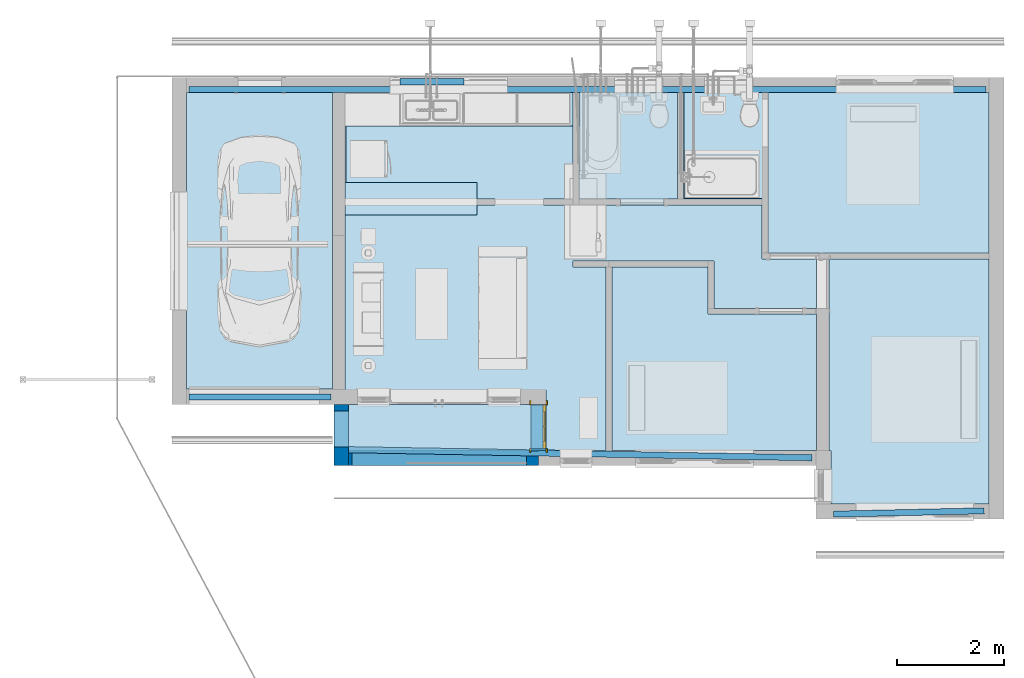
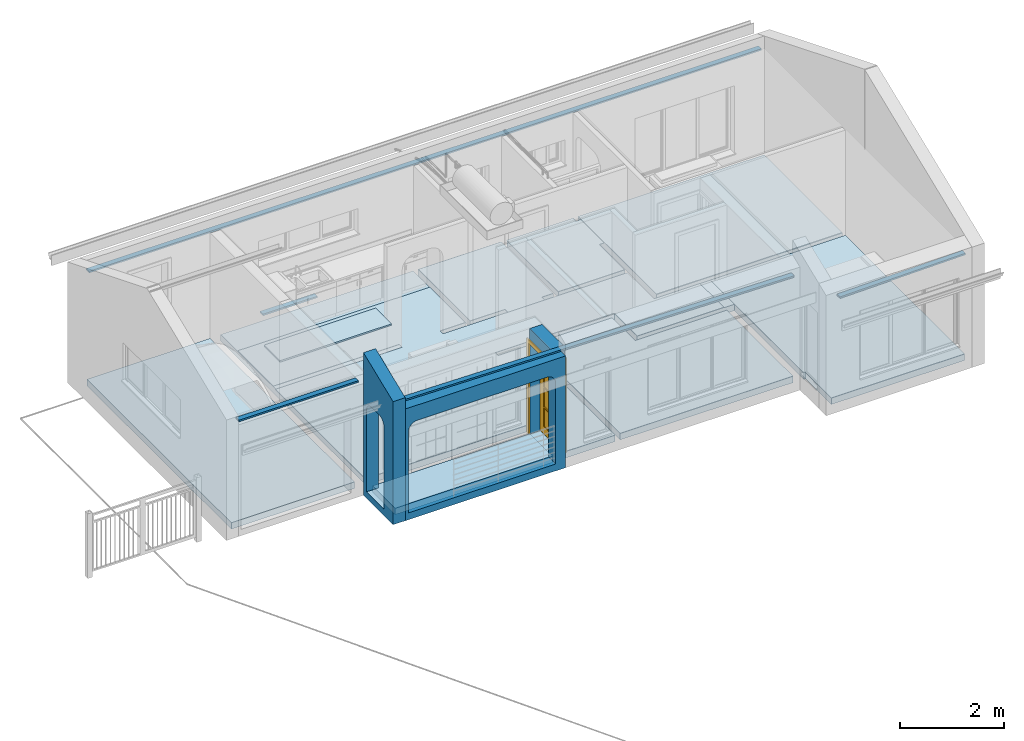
# One storey, part 1 of 41: 16 slabs, 5 beams, 3 walls, 1 door, 3 openings.
"""IFC2X3 building model written with IfcOpenShell, lengths in millimetres."""

from ifc_helpers import new_model, entity, si_unit, converted_unit, derived_unit, direction, frame, frame_2d, origin, origin_2d_with_axis, place, context, subcontext, project, spatial, polyline, circle_curve, parameter, trimmed, segment, composite_curve, rectangle, outline, extrude, clip, bounded_halfspace, source, transform, mapped, material, material_list, layer, layer_set, layer_usage, type_object, type_shapes, element, fill, save


model = new_model("IFC2X3")

# Units and contexts
model_context = context("Model", 3, precision=0.01, world=origin(), true_north=direction((6.12303176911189e-17, 1.0)))
body_context = subcontext(model_context, "Body", "Model", "MODEL_VIEW")
ifc_project = project(units=[si_unit("LENGTHUNIT", "METRE", prefix="MILLI"), si_unit("AREAUNIT", "SQUARE_METRE"), si_unit("VOLUMEUNIT", "CUBIC_METRE"), converted_unit("PLANEANGLEUNIT", "DEGREE", entity("IfcRatioMeasure", 0.0174532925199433), si_unit("PLANEANGLEUNIT", "RADIAN"), dimensions=[0, 0, 0, 0, 0, 0, 0]), si_unit("MASSUNIT", "GRAM", prefix="KILO"), derived_unit("MASSDENSITYUNIT", [(si_unit("MASSUNIT", "GRAM", prefix="KILO"), 1), (si_unit("LENGTHUNIT", "METRE"), -3)]), si_unit("TIMEUNIT", "SECOND"), si_unit("FREQUENCYUNIT", "HERTZ"), si_unit("THERMODYNAMICTEMPERATUREUNIT", "DEGREE_CELSIUS"), derived_unit("THERMALTRANSMITTANCEUNIT", [(si_unit("MASSUNIT", "GRAM", prefix="KILO"), 1), (si_unit("THERMODYNAMICTEMPERATUREUNIT", "KELVIN"), -1), (si_unit("TIMEUNIT", "SECOND"), -3)]), derived_unit("VOLUMETRICFLOWRATEUNIT", [(si_unit("LENGTHUNIT", "METRE"), 3), (si_unit("TIMEUNIT", "SECOND"), -1)]), si_unit("ELECTRICCURRENTUNIT", "AMPERE"), si_unit("ELECTRICVOLTAGEUNIT", "VOLT"), si_unit("POWERUNIT", "WATT"), si_unit("FORCEUNIT", "NEWTON", prefix="KILO"), si_unit("ILLUMINANCEUNIT", "LUX"), si_unit("LUMINOUSFLUXUNIT", "LUMEN"), si_unit("LUMINOUSINTENSITYUNIT", "CANDELA"), derived_unit("USERDEFINED", [(si_unit("MASSUNIT", "GRAM", prefix="KILO"), -1), (si_unit("LENGTHUNIT", "METRE"), -2), (si_unit("TIMEUNIT", "SECOND"), 3), (si_unit("LUMINOUSFLUXUNIT", "LUMEN"), 1)]), derived_unit("LINEARVELOCITYUNIT", [(si_unit("LENGTHUNIT", "METRE"), 1), (si_unit("TIMEUNIT", "SECOND"), -1)]), si_unit("PRESSUREUNIT", "PASCAL"), derived_unit("USERDEFINED", [(si_unit("LENGTHUNIT", "METRE"), -2), (si_unit("MASSUNIT", "GRAM", prefix="KILO"), 1), (si_unit("TIMEUNIT", "SECOND"), -2)])], contexts=[model_context])

# Site, building, storey
site_placement = place(None, origin())
site = spatial("IfcSite", under=ifc_project, at=site_placement, Name="Surface", CompositionType="ELEMENT")
building_placement = place(site_placement, origin())
building = spatial("IfcBuilding", under=site, at=building_placement, CompositionType="ELEMENT")
storey_placement = place(building_placement, frame((0.0, 0.0, 300.0)))
storey = spatial("IfcBuildingStorey", under=building, at=storey_placement, Name="F.F.L", CompositionType="ELEMENT", Elevation=300.0)

# Beams
ifc_material_1 = material(Name="Softwood, Lumber")
beam_type = type_object("IfcBeamType", Name="M_Glulam-Southern Pine:Wallplate  114x38", PredefinedType="BEAM")
beam_1_placement = place(storey_placement, frame((3407.29863510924, 2737.48311164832, 2465.0), z_axis=(0.0, 0.0, 1.0), x_axis=(-0.999760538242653, -0.0218830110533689, 0.0)))
element("IfcBeam", 1, at=beam_1_placement, inside=storey, type_object=beam_type, material=ifc_material_1, Name="M_Glulam-Southern Pine:Wallplate  114x38", ObjectType="M_Glulam-Southern Pine:Wallplate  114x38", context=body_context, shape_type="SweptSolid", body=[
    extrude(rectangle(XDim=38.0, YDim=114.000000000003, at=frame_2d((0.0, -5.40012479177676e-13), x_axis=(1.0, 0.0))), frame((314.259567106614, 0.0, 19.0), z_axis=(1.0, 0.0, 0.0), x_axis=(0.0, 0.0, -1.0)), (0.0, 0.0, 1.0), 2813.42966538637),
])
beam_2_placement = place(storey_placement, frame((-46.7807598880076, 3720.84008915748, 2465.0), z_axis=(0.0, 0.0, 1.0), x_axis=(-0.999847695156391, 0.0174524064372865, 0.0)))
element("IfcBeam", 2, at=beam_2_placement, inside=storey, type_object=beam_type, material=ifc_material_1, Name="M_Glulam-Southern Pine:Wallplate  114x38", ObjectType="M_Glulam-Southern Pine:Wallplate  114x38", context=body_context, shape_type="SweptSolid", body=[
    extrude(rectangle(XDim=38.0, YDim=114.000000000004, at=origin_2d_with_axis()), frame((78.1512943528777, 0.0, 19.0), z_axis=(1.0, 0.0, 0.0), x_axis=(0.0, 0.0, -1.0)), (0.0, 0.0, 1.0), 8693.88917741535),
])
beam_3_placement = place(storey_placement, frame((-9259.2914202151, 4860.84008915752, 2465.0), z_axis=(0.0, 0.0, 1.0), x_axis=(-1.0, 0.0, 0.0)))
element("IfcBeam", 3, at=beam_3_placement, inside=storey, type_object=beam_type, material=ifc_material_1, Name="M_Glulam-Southern Pine:Wallplate  114x38", ObjectType="M_Glulam-Southern Pine:Wallplate  114x38", context=body_context, shape_type="SweptSolid", body=[
    extrude(rectangle(XDim=38.0, YDim=114.000000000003, at=frame_2d((0.0, 9.2050811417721e-12), x_axis=(1.0, 0.0))), frame((-142.416250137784, 0.0, 19.0), z_axis=(1.0, 0.0, 0.0), x_axis=(0.0, 0.0, -1.0)), (0.0, 0.0, 1.0), 2647.5),
])
beam_4_placement = place(storey_placement, frame((-11838.9452826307, 10606.8170198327, 2465.0)))
element("IfcBeam", 4, at=beam_4_placement, inside=storey, type_object=beam_type, material=ifc_material_1, Name="M_Glulam-Southern Pine:Wallplate  114x38", ObjectType="M_Glulam-Southern Pine:Wallplate  114x38", context=body_context, shape_type="SweptSolid", body=[
    extrude(rectangle(XDim=38.0, YDim=114.000000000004, at=frame_2d((0.0, 4.87290208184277e-11), x_axis=(1.0, 0.0))), frame((74.5701125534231, 0.0, 19.0), z_axis=(1.0, 0.0, 0.0), x_axis=(0.0, 0.0, -1.0)), (0.0, 0.0, 1.0), 14887.5),
])
beam_5_placement = place(storey_placement, frame((-7828.80414978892, 10749.0773723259, 0.0)))
element("IfcBeam", 5, at=beam_5_placement, inside=storey, type_object=beam_type, material=ifc_material_1, Name="M_Glulam-Southern Pine:Wallplate  114x38", ObjectType="M_Glulam-Southern Pine:Wallplate  114x38", context=body_context, shape_type="SweptSolid", body=[
    extrude(rectangle(XDim=38.0, YDim=114.000000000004, at=frame_2d((0.0, 4.33431068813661e-12), x_axis=(1.0, 0.0))), frame((0.0, 0.0, 19.0), z_axis=(1.0, 0.0, 0.0), x_axis=(0.0, 0.0, -1.0)), (0.0, 0.0, 1.0), 1200.0),
])

# Slabs
ifc_material_2 = material(Name="Screed")
ifc_layer_1 = layer(ifc_material_2, 30.0)
ifc_material_3 = material(Name="Concrete, Cast-in-Place gray")
ifc_layer_2 = layer(ifc_material_3, 70.0)
ifc_material_4 = material(Name="Sandbed")
ifc_layer_3 = layer(ifc_material_4, 50.0)
ifc_layer_set_1 = layer_set([ifc_layer_1, ifc_layer_2, ifc_layer_3], Name="Floor:Surfacebed 150mm (Screed,Concrete,Sandbed)")
ifc_layer_usage_1 = layer_usage(ifc_layer_set_1, "AXIS3", "POSITIVE", 0.0)
slab_1_placement = place(storey_placement, origin())
element("IfcSlab", 6, at=slab_1_placement, inside=storey, material=ifc_layer_usage_1, Name="Floor:Surfacebed 150mm (Screed,Concrete,Sandbed)", ObjectType="Floor:Surfacebed 150mm (Screed,Concrete,Sandbed)", PredefinedType="FLOOR", context=body_context, shape_type="SweptSolid", body=[
    extrude(rectangle(XDim=1979.8722147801, YDim=1470.0, at=frame_2d((-5.6843418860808e-13, 0.0), x_axis=(1.0, 0.0))), frame((-1781.8751700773, 9555.90398176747, 0.0), z_axis=(0.0, 0.0, -1.0), x_axis=(0.0, 1.0, 0.0)), (0.0, 0.0, 1.0), 150.0),
])
ifc_layer_usage_2 = layer_usage(ifc_layer_set_1, "AXIS3", "POSITIVE", 0.0)
slab_2_placement = place(storey_placement, origin())
element("IfcSlab", 7, at=slab_2_placement, inside=storey, material=ifc_layer_usage_2, Name="Floor:Surfacebed 150mm (Screed,Concrete,Sandbed)", ObjectType="Floor:Surfacebed 150mm (Screed,Concrete,Sandbed)", PredefinedType="FLOOR", context=body_context, shape_type="SweptSolid", body=[
    extrude(rectangle(XDim=3010.00000000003, YDim=4120.0, at=frame_2d((-5.6843418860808e-13, 0.0), x_axis=(1.0, 0.0))), frame((1123.1248299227, 9040.8400891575, 0.0), z_axis=(0.0, 0.0, -1.0), x_axis=(0.0, 1.0, 0.0)), (0.0, 0.0, 1.0), 150.0),
])
ifc_layer_usage_3 = layer_usage(ifc_layer_set_1, "AXIS3", "POSITIVE", 0.0)
slab_3_placement = place(storey_placement, origin())
element("IfcSlab", 8, at=slab_3_placement, inside=storey, material=ifc_layer_usage_3, Name="Floor:Surfacebed 150mm (Screed,Concrete,Sandbed)", ObjectType="Floor:Surfacebed 150mm (Screed,Concrete,Sandbed)", PredefinedType="FLOOR", context=body_context, shape_type="SweptSolid", body=[
    extrude(outline(polyline([(-1990.0, -1876.66666666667), (1435.0, -1876.66666666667), (1435.0, -76.6666666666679), (555.0, -76.6666666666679), (555.0, 1953.33333333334), (-1990.0, 1953.33333333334), (-1990.0, -1876.66666666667)])), frame((-1990.20850341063, 5850.84008915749, 0.0), z_axis=(0.0, 0.0, -1.0), x_axis=(0.0, 1.0, 0.0)), (0.0, 0.0, 1.0), 150.0),
])
ifc_layer_usage_4 = layer_usage(ifc_layer_set_1, "AXIS3", "POSITIVE", 0.0)
slab_4_placement = place(storey_placement, origin())
element("IfcSlab", 9, at=slab_4_placement, inside=storey, material=ifc_layer_usage_4, Name="Floor:Surfacebed 150mm (Screed,Concrete,Sandbed)", ObjectType="Floor:Surfacebed 150mm (Screed,Concrete,Sandbed)", PredefinedType="FLOOR", context=body_context, shape_type="SweptSolid", body=[
    extrude(outline(polyline([(-865.0, -1010.0), (2720.0, -1010.0), (2720.0, 1980.0), (-1855.0, 1980.0), (-1855.0, -970.0), (-865.0, -970.0), (-865.0, -1010.0)])), frame((1203.12482992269, 4715.84008915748, 0.0), z_axis=(0.0, 0.0, -1.0), x_axis=(0.0, 1.0, 0.0)), (0.0, 0.0, 1.0), 150.0),
])
ifc_layer_usage_5 = layer_usage(ifc_layer_set_1, "AXIS3", "POSITIVE", 0.0)
slab_5_placement = place(storey_placement, origin())
element("IfcSlab", 10, at=slab_5_placement, inside=storey, material=ifc_layer_usage_5, Name="Floor:Surfacebed 150mm (Screed,Concrete,Sandbed)", ObjectType="Floor:Surfacebed 150mm (Screed,Concrete,Sandbed)", PredefinedType="FLOOR", context=body_context, shape_type="SweptSolid", body=[
    extrude(rectangle(XDim=5539.99999999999, YDim=2729.99999999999, at=frame_2d((-9.09494701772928e-13, 2.72848410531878e-12), x_axis=(1.0, 0.0))), frame((-10451.8751700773, 7775.84008915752, 0.0), z_axis=(0.0, 0.0, -1.0), x_axis=(0.0, 1.0, 0.0)), (0.0, 0.0, 1.0), 150.0),
])
ifc_layer_usage_6 = layer_usage(ifc_layer_set_1, "AXIS3", "POSITIVE", 0.0)
slab_6_placement = place(storey_placement, origin())
element("IfcSlab", 11, at=slab_6_placement, inside=storey, material=ifc_layer_usage_6, Name="Floor:Surfacebed 150mm (Screed,Concrete,Sandbed)", ObjectType="Floor:Surfacebed 150mm (Screed,Concrete,Sandbed)", PredefinedType="FLOOR", context=body_context, shape_type="SweptSolid", body=[
    extrude(rectangle(XDim=870.000000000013, YDim=3490.00000000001, at=frame_2d((2.44426701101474e-12, 1.13686837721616e-12), x_axis=(1.0, 0.0))), frame((-7111.87517007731, 4285.84008915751, 0.0), z_axis=(0.0, 0.0, -1.0), x_axis=(0.0, 1.0, 0.0)), (0.0, 0.0, 1.0), 150.0),
])
ifc_layer_usage_7 = layer_usage(ifc_layer_set_1, "AXIS3", "POSITIVE", 0.0)
slab_7_placement = place(storey_placement, origin())
element("IfcSlab", 12, at=slab_7_placement, inside=storey, material=ifc_layer_usage_7, Name="Floor:Surfacebed 150mm (Screed,Concrete,Sandbed)", ObjectType="Floor:Surfacebed 150mm (Screed,Concrete,Sandbed)", PredefinedType="FLOOR", context=body_context, shape_type="SweptSolid", body=[
    extrude(rectangle(XDim=1999.99999999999, YDim=1840.0, at=frame_2d((-5.6843418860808e-13, 0.0), x_axis=(1.0, 0.0))), frame((-3556.87517007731, 9555.8400891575, 0.0), z_axis=(0.0, 0.0, -1.0), x_axis=(0.0, 1.0, 0.0)), (0.0, 0.0, 1.0), 150.0),
])
ifc_layer_usage_8 = layer_usage(ifc_layer_set_1, "AXIS3", "POSITIVE", 0.0)
slab_8_placement = place(storey_placement, origin())
element("IfcSlab", 13, at=slab_8_placement, inside=storey, material=ifc_layer_usage_8, Name="Floor:Surfacebed 150mm (Screed,Concrete,Sandbed)", ObjectType="Floor:Surfacebed 150mm (Screed,Concrete,Sandbed)", PredefinedType="FLOOR", context=body_context, shape_type="SweptSolid", body=[
    extrude(outline(polyline([(-2164.24999999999, -5336.0), (3400.75000000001, -5336.0), (3400.75, -1076.0), (1400.75000000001, -1076.0), (1400.75000000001, -1636.0), (1290.75000000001, -1636.0), (1290.75, 2454.0), (280.749999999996, 2454.0), (280.749999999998, 3704.0), (-646.750000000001, 3704.0), (-646.750000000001, 3474.0), (-639.250000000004, 3474.0), (-639.250000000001, 1554.0), (240.749999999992, 1554.0), (240.749999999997, -1076.0), (130.749999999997, -1076.0), (130.749999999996, -466.0), (-3294.25, -466.0), (-3294.25, -1596.0), (-2164.25, -1596.0), (-2164.24999999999, -5336.0)])), frame((-3510.8751700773, 7155.09008915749, 0.0), z_axis=(0.0, 0.0, -1.0), x_axis=(0.0, 1.0, 0.0)), (0.0, 0.0, 1.0), 150.0),
])
ifc_material_5 = material(Name="Floor Tile")
ifc_layer_4 = layer(ifc_material_5, 4.0)
ifc_layer_set_2 = layer_set([ifc_layer_4], Name="Floor:Tiles")
ifc_layer_usage_9 = layer_usage(ifc_layer_set_2, "AXIS3", "POSITIVE", 0.0)
slab_9_placement = place(storey_placement, origin())
element("IfcSlab", 14, at=slab_9_placement, inside=storey, material=ifc_layer_usage_9, Name="Floor:Tiles", ObjectType="Floor:Tiles", PredefinedType="FLOOR", context=body_context, shape_type="SweptSolid", body=[
    extrude(outline(polyline([(-2409.96363636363, -4294.54545454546), (1045.03636363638, -4294.54545454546), (1045.03636363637, -1484.54545454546), (1155.03636363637, -1484.54545454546), (1155.03636363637, -4274.54545454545), (2519.63636363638, -4274.54545454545), (2519.63636363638, -24.5454545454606), (1155.03636363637, -24.5454545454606), (1155.03636363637, -584.545454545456), (1045.03636363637, -584.545454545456), (1045.03636363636, 3505.45454545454), (35.0363636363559, 3505.45454545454), (35.0363636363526, 4525.45454545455), (-884.96363636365, 4525.45454545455), (-884.963636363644, 2605.45454545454), (-4.9636363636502, 2605.45454545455), (-4.96363636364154, -24.5454545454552), (-114.963636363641, -24.5454545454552), (-114.963636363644, 585.454545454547), (-3539.96363636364, 585.454545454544), (-3539.96363636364, -534.545454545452), (-2409.96363636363, -534.545454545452), (-2409.96363636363, -4294.54545454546)])), frame((-4562.32971553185, 7400.80372552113, 3.0), z_axis=(0.0, 0.0, -1.0), x_axis=(0.0, 1.0, 0.0)), (0.0, 0.0, 1.0), 4.0),
])
ifc_material_6 = material(Name="Tile - Teracota")
ifc_layer_5 = layer(ifc_material_6, 4.0)
ifc_layer_set_3 = layer_set([ifc_layer_5], Name="Floor:Tiles - Teracota 2")
ifc_layer_usage_10 = layer_usage(ifc_layer_set_3, "AXIS3", "POSITIVE", 0.0)
slab_10_placement = place(storey_placement, origin())
element("IfcSlab", 15, at=slab_10_placement, inside=storey, material=ifc_layer_usage_10, Name="Floor:Tiles - Teracota 2", ObjectType="Floor:Tiles - Teracota 2", PredefinedType="FLOOR", context=body_context, shape_type="SweptSolid", body=[
    extrude(outline(polyline([(-352.500000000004, -1125.0), (327.499999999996, -1125.0), (327.499999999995, -855.0), (447.500000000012, -855.0), (447.500000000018, 2835.0), (-422.500000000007, 2835.0), (-422.500000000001, -855.0), (-352.500000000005, -855.0), (-352.500000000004, -1125.0)])), frame((-7931.87517007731, 4273.34008915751, 3.0), z_axis=(0.0, 0.0, -1.0), x_axis=(0.0, 1.0, 0.0)), (0.0, 0.0, 1.0), 4.0),
])
ifc_material_7 = material(Name="Carpet")
ifc_layer_6 = layer(ifc_material_7, 4.0)
ifc_layer_set_4 = layer_set([ifc_layer_6], Name="Floor:Carpet")
ifc_layer_usage_11 = layer_usage(ifc_layer_set_4, "AXIS3", "POSITIVE", 0.0)
slab_11_placement = place(storey_placement, origin())
element("IfcSlab", 16, at=slab_11_placement, inside=storey, material=ifc_layer_usage_11, Name="Floor:Carpet", ObjectType="Floor:Carpet", PredefinedType="FLOOR", context=body_context, shape_type="SweptSolid", body=[
    extrude(outline(polyline([(-1990.0, -1876.66666666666), (1435.0, -1876.66666666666), (1435.0, -76.6666666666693), (555.0, -76.6666666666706), (555.0, 1953.33333333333), (-1990.0, 1953.33333333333), (-1990.0, -1876.66666666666)])), frame((-1990.20850341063, 5850.84008915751, 3.0), z_axis=(0.0, 0.0, -1.0), x_axis=(0.0, 1.0, 0.0)), (0.0, 0.0, 1.0), 4.0),
])
ifc_layer_usage_12 = layer_usage(ifc_layer_set_4, "AXIS3", "POSITIVE", 0.0)
slab_12_placement = place(storey_placement, origin())
element("IfcSlab", 17, at=slab_12_placement, inside=storey, material=ifc_layer_usage_12, Name="Floor:Carpet", ObjectType="Floor:Carpet", PredefinedType="FLOOR", context=body_context, shape_type="SweptSolid", body=[
    extrude(outline(polyline([(-858.333333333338, -1010.0), (2716.66666666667, -1010.0), (2716.66666666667, 1980.0), (-1858.33333333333, 1980.0), (-1858.33333333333, -970.0), (-858.333333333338, -970.0), (-858.333333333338, -1010.0)])), frame((1203.12482992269, 4719.17342249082, 3.0), z_axis=(0.0, 0.0, -1.0), x_axis=(0.0, 1.0, 0.0)), (0.0, 0.0, 1.0), 4.0),
])
ifc_layer_usage_13 = layer_usage(ifc_layer_set_4, "AXIS3", "POSITIVE", 0.0)
slab_13_placement = place(storey_placement, origin())
element("IfcSlab", 18, at=slab_13_placement, inside=storey, material=ifc_layer_usage_13, Name="Floor:Carpet", ObjectType="Floor:Carpet", PredefinedType="FLOOR", context=body_context, shape_type="SweptSolid", body=[
    extrude(rectangle(XDim=3000.00000000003, YDim=4120.0, at=origin_2d_with_axis()), frame((1123.1248299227, 9045.8400891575, 3.0), z_axis=(0.0, 0.0, -1.0), x_axis=(0.0, 1.0, 0.0)), (0.0, 0.0, 1.0), 4.0),
])
ifc_layer_usage_14 = layer_usage(ifc_layer_set_2, "AXIS3", "POSITIVE", 0.0)
slab_14_placement = place(storey_placement, origin())
element("IfcSlab", 19, at=slab_14_placement, inside=storey, material=ifc_layer_usage_14, Name="Floor:Tiles", ObjectType="Floor:Tiles", PredefinedType="FLOOR", context=body_context, shape_type="SweptSolid", body=[
    extrude(outline(polyline([(-470.0, -1047.92286400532), (1520.0, -1047.92286400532), (1520.0, 792.077135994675), (-470.0, 792.077135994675), (-470.0, 535.268592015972), (-580.0, 535.268592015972), (-580.0, -279.422864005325), (-470.0, -279.422864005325), (-470.0, -1047.92286400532)])), frame((-3428.95230607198, 9025.8400891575, 3.0), z_axis=(0.0, 0.0, -1.0), x_axis=(0.0, 1.0, 0.0)), (0.0, 0.0, 1.0), 4.0),
])
ifc_layer_usage_15 = layer_usage(ifc_layer_set_2, "AXIS3", "POSITIVE", 0.0)
slab_15_placement = place(storey_placement, origin())
element("IfcSlab", 20, at=slab_15_placement, inside=storey, material=ifc_layer_usage_15, Name="Floor:Tiles", ObjectType="Floor:Tiles", PredefinedType="FLOOR", context=body_context, shape_type="SweptSolid", body=[
    extrude(outline(polyline([(-1208.80998409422, -1130.0), (781.19001590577, -1130.0), (781.19001590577, 340.0), (663.809984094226, 340.0), (663.809984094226, 450.0), (-236.190015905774, 450.0), (-236.190015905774, 340.0), (-1208.80998409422, 340.0), (-1208.80998409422, -1130.0)])), frame((-1396.8751700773, 9764.65007325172, 3.0), z_axis=(0.0, 0.0, -1.0), x_axis=(0.0, 1.0, 0.0)), (0.0, 0.0, 1.0), 4.0),
])
ifc_material_8 = material(Name="Concrete, Lightweight")
ifc_layer_7 = layer(ifc_material_8, 34.0)
ifc_layer_set_5 = layer_set([ifc_layer_7], Name="Floor:Insitu Concrete 34mm")
ifc_layer_usage_16 = layer_usage(ifc_layer_set_5, "AXIS3", "POSITIVE", 0.0)
slab_16_placement = place(storey_placement, origin())
element("IfcSlab", 21, at=slab_16_placement, inside=storey, material=ifc_layer_usage_16, Name="Floor:Insitu Concrete 34mm", ObjectType="Floor:Insitu Concrete 34mm", PredefinedType="FLOOR", context=body_context, shape_type="SweptSolid", body=[
    extrude(rectangle(XDim=608.790999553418, YDim=2470.0, at=frame_2d((5.40012479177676e-13, 5.6843418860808e-13), x_axis=(1.0, 0.0))), frame((-7621.87517007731, 8564.11921834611, 783.0), z_axis=(0.0, 0.0, -1.0), x_axis=(0.0, 1.0, 0.0)), (0.0, 0.0, 1.0), 34.0),
])

# Wall, opening, door
ifc_material_9 = material(Name="Plaster")
ifc_layer_8 = layer(ifc_material_9, 10.0)
ifc_material_10 = material(Name="Brickwork - 110mm (Stock)")
ifc_layer_9 = layer(ifc_material_10, 110.0)
ifc_material_11 = material(Name="Air Infiltration Barrier")
ifc_layer_10 = layer(ifc_material_11, 50.0)
ifc_material_12 = material(Name="Brickwork - Facebrick (Plettenberg Autumn)")
ifc_layer_11 = layer(ifc_material_12, 110.0)
ifc_layer_set_6 = layer_set([ifc_layer_8, ifc_layer_9, ifc_layer_10, ifc_layer_11], Name="Basic Wall:BrickWall - 270mm (Ext.F&Int.S) 2")
ifc_layer_usage_17 = layer_usage(ifc_layer_set_6, "AXIS2", "POSITIVE", -140.0)
wall_type_1 = type_object("IfcWallType", Name="Basic Wall:BrickWall - 270mm (Ext.F&Int.S) 2", PredefinedType="STANDARD", material=ifc_layer_set_6)
wall_1_placement = place(storey_placement, frame((-5236.8751700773, 3850.8400891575, -150.0), z_axis=(0.0, 0.0, 1.0), x_axis=(0.0, 1.0, 0.0)))
wall_1 = element("IfcWallStandardCase", 22, at=wall_1_placement, inside=storey, type_object=wall_type_1, material=ifc_layer_usage_17, Name="Basic Wall:BrickWall - 270mm (Ext.F&Int.S) 2", ObjectType="Basic Wall:BrickWall - 270mm (Ext.F&Int.S) 2", context=body_context, shape_type="SweptSolid", body=[
    extrude(outline(polyline([(870.0, -140.0), (870.0, 140.0), (0.0, 140.0), (0.0, 0.0), (10.0, 0.0), (10.0, -140.0), (870.0, -140.0)])), origin(), (0.0, 0.0, 1.0), 2615.0),
])
opening_1_placement = place(wall_1_placement, frame((861.500000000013, 140.0, 150.0)))
opening_1 = element("IfcOpeningElement", 23, at=opening_1_placement, cuts=wall_1, Name="M_Single-Glass 2:0813 x 2134mm:1", ObjectType="Opening", context=body_context, shape_type="SweptSolid", body=[
    extrude(rectangle(XDim=813.000000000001, YDim=2134.0, at=frame_2d((1067.0, 406.5), x_axis=(0.0, 1.0))), frame((0.0, 0.0, 0.0), z_axis=(0.0, -1.0, 0.0), x_axis=(0.0, 0.0, 1.0)), (0.0, 0.0, 1.0), 280.0),
])
ifc_material_13 = material(Name="Meranti - Varnish Mat")
ifc_material_14 = material(Name="Glass")
ifc_material_list_1 = material_list([ifc_material_13, ifc_material_14])
ifc_material_list_2 = material_list([ifc_material_13, ifc_material_14])
door_style = type_object("IfcDoorStyle", Name="0813 x 2134mm", ConstructionType="NOTDEFINED", OperationType="SINGLE_SWING_RIGHT", ParameterTakesPrecedence=False, Sizeable=False, material=ifc_material_list_2)
shared_shape = source(origin(), body_context, "Body", "SweptSolid", [
    extrude(outline(polyline([(-1124.0, -482.499999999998), (1086.0, -482.499999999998), (1086.0, -406.499999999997), (-1048.0, -406.499999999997), (-1048.0, 406.499999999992), (1086.0, 406.499999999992), (1086.0, 482.500000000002), (-1124.0, 482.500000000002), (-1124.0, -482.499999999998)])), frame((406.500000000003, -25.0, 1086.0), z_axis=(0.0, 1.0, 0.0), x_axis=(0.0, 0.0, -1.0)), (0.0, 0.0, 1.0), 24.9999999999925),
    extrude(outline(polyline([(-482.500000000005, -1124.0), (482.499999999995, -1124.0), (482.499999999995, 1086.0), (406.500000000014, 1086.0), (406.500000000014, -1048.0), (-406.500000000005, -1048.0), (-406.500000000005, 1086.0), (-482.500000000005, 1086.0), (-482.500000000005, -1124.0)])), frame((406.500000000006, 280.0, 1086.0), z_axis=(0.0, 1.0, 0.0), x_axis=(1.0, 0.0, 0.0)), (0.0, 0.0, 1.0), 25.0000000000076),
    extrude(outline(polyline([(-1067.0, -406.500000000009), (1067.0, -406.500000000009), (1067.0, 406.500000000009), (-1067.0, 406.500000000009), (-1067.0, -406.500000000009)]), holes=[polyline([(-940.400000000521, 12.5000000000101), (-940.400000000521, 279.500000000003), (-501.050000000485, 279.500000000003), (-501.050000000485, 12.5000000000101), (-940.400000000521, 12.5000000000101)]), polyline([(-940.400000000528, -279.499999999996), (-940.400000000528, -12.4999999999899), (-501.050000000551, -12.4999999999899), (-501.050000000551, -279.499999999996), (-940.400000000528, -279.499999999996)]), polyline([(-476.050000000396, 12.5000000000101), (-476.050000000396, 279.500000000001), (-36.7000000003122, 279.500000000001), (-36.7000000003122, 12.5000000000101), (-476.050000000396, 12.5000000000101)]), polyline([(-476.050000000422, -279.500000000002), (-476.050000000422, -12.4999999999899), (-36.7000000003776, -12.4999999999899), (-36.7000000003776, -279.500000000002), (-476.050000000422, -279.500000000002)]), polyline([(-11.7000000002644, 12.4999999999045), (-11.7000000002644, 279.499999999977), (427.649999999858, 279.499999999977), (427.649999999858, 12.4999999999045), (-11.7000000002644, 12.4999999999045)]), polyline([(-11.7000000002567, -279.500000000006), (-11.7000000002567, -12.5000000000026), (427.649999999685, -12.5000000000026), (427.649999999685, -279.500000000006), (-11.7000000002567, -279.500000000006)]), polyline([(452.649999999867, 12.4999999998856), (452.649999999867, 279.499999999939), (892.0, 279.499999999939), (892.0, 12.4999999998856), (452.649999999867, 12.4999999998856)]), polyline([(452.649999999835, -279.500000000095), (452.649999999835, -12.5000000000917), (892.0, -12.5000000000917), (892.0, -279.500000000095), (452.649999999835, -279.500000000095)])]), frame((406.500000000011, 229.0, 1067.0), z_axis=(0.0, 1.0, 0.0), x_axis=(0.0, 0.0, -1.0)), (0.0, 0.0, 1.0), 51.0000000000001),
    extrude(rectangle(XDim=12.5, YDim=267.000000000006, at=frame_2d((0.0, -1.4210854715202e-14), x_axis=(1.0, 0.0))), frame((552.500000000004, 254.500000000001, 1568.05000000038), z_axis=(0.0, 0.0, 1.0), x_axis=(0.0, 1.0, 0.0)), (0.0, 0.0, 1.0), 439.350000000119),
    extrude(rectangle(XDim=12.5, YDim=266.999999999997, at=origin_2d_with_axis()), frame((260.500000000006, 254.500000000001, 1568.05000000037), z_axis=(0.0, 0.0, 1.0), x_axis=(0.0, 1.0, 0.0)), (0.0, 0.0, 1.0), 439.350000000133),
    extrude(rectangle(XDim=12.5, YDim=267.000000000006, at=origin_2d_with_axis()), frame((552.500000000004, 254.500000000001, 1103.70000000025), z_axis=(0.0, 0.0, 1.0), x_axis=(0.0, 1.0, 0.0)), (0.0, 0.0, 1.0), 439.350000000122),
    extrude(rectangle(XDim=12.5, YDim=267.000000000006, at=origin_2d_with_axis()), frame((260.50000000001, 254.500000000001, 1103.70000000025), z_axis=(0.0, 0.0, 1.0), x_axis=(0.0, 1.0, 0.0)), (0.0, 0.0, 1.0), 439.350000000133),
    extrude(rectangle(XDim=12.5, YDim=267.000000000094, at=origin_2d_with_axis()), frame((260.500000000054, 254.500000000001, 639.350000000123), z_axis=(0.0, 0.0, 1.0), x_axis=(0.0, 1.0, 0.0)), (0.0, 0.0, 1.0), 439.350000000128),
    extrude(rectangle(XDim=12.5, YDim=266.999999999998, at=frame_2d((0.0, 1.4210854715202e-14), x_axis=(1.0, 0.0))), frame((552.500000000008, 254.500000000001, 639.350000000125), z_axis=(0.0, 0.0, 1.0), x_axis=(0.0, 1.0, 0.0)), (0.0, 0.0, 1.0), 439.350000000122),
    extrude(rectangle(XDim=12.5, YDim=266.99999999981, at=origin_2d_with_axis()), frame((552.500000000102, 254.500000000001, 175.0), z_axis=(0.0, 0.0, 1.0), x_axis=(0.0, 1.0, 0.0)), (0.0, 0.0, 1.0), 439.350000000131),
    extrude(rectangle(XDim=12.5, YDim=267.000000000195, at=origin_2d_with_axis()), frame((260.500000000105, 254.500000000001, 175.0), z_axis=(0.0, 0.0, 1.0), x_axis=(0.0, 1.0, 0.0)), (0.0, 0.0, 1.0), 439.350000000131),
])
type_shapes(door_style, [shared_shape])
door_placement = place(opening_1_placement, frame((0.0, 0.0, 0.0), z_axis=(0.0, 0.0, 1.0), x_axis=(-1.0, 0.0, 0.0)))
door = element("IfcDoor", 24, at=door_placement, inside=storey, type_object=door_style, material=ifc_material_list_1, Name="M_Single-Glass 2:0813 x 2134mm", ObjectType="0813 x 2134mm", OverallHeight=2134.0, OverallWidth=813.000000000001, context=body_context, shape_type="MappedRepresentation", body=[
    mapped(shared_shape, transform((0.0, 0.0, 0.0), scale=1.0)),
])
fill(opening_1, door)

# Wall, opening
ifc_layer_12 = layer(ifc_material_12, 110.0)
ifc_layer_13 = layer(ifc_material_11, 50.0)
ifc_layer_14 = layer(ifc_material_12, 110.0)
ifc_layer_set_7 = layer_set([ifc_layer_12, ifc_layer_13, ifc_layer_14], Name="Basic Wall:BrickWall - 270mm (Ext.F&Int.F)")
ifc_layer_usage_18 = layer_usage(ifc_layer_set_7, "AXIS2", "NEGATIVE", 135.0)
wall_type_2 = type_object("IfcWallType", Name="Basic Wall:BrickWall - 270mm (Ext.F&Int.F)", PredefinedType="STANDARD", material=ifc_layer_set_7)
wall_2_placement = place(storey_placement, frame((-8921.87517007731, 4720.84008915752, -150.0), z_axis=(0.0, 0.0, 1.0), x_axis=(0.0, -1.0, 0.0)))
wall_2 = element("IfcWallStandardCase", 25, at=wall_2_placement, inside=storey, type_object=wall_type_2, material=ifc_layer_usage_18, Name="Basic Wall:BrickWall - 270mm (Ext.F&Int.F)", ObjectType="Basic Wall:BrickWall - 270mm (Ext.F&Int.F)", context=body_context, shape_type="Clipping", body=[
    clip(extrude(rectangle(XDim=1140.00000000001, YDim=269.999999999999, at=frame_2d((570.000000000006, -1.4210854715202e-14), x_axis=(-1.0, 0.0))), origin(), (0.0, 0.0, 1.0), 3340.46657647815), bounded_halfspace(frame((0.0, -135.0, 3340.46657647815), z_axis=(0.374606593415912, 0.0, 0.927183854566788), x_axis=(0.0, 1.0, 0.0)), False, frame((0.0, -135.0, 3340.46657647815)), polyline([(0.0, 0.0), (1140.0, 0.0), (1140.0, 270.0), (0.0, 270.0), (0.0, 0.0)]))),
])
opening_2_placement = place(wall_2_placement, origin())
element("IfcOpeningElement", 26, at=opening_2_placement, cuts=wall_2, Name="Basic Wall:BrickWall - 270mm (Ext.F&Int.F)", ObjectType="Opening", context=body_context, shape_type="SweptSolid", body=[
    extrude(outline(composite_curve([segment(polyline([(-1333.33333333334, -340.0), (566.666666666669, -340.0)]), True, "CONTINUOUS"), segment(trimmed(circle_curve(frame_2d((566.666666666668, -140.0), x_axis=(0.0, 1.0)), 200.0), [parameter(180.0)], [parameter(270.0)], True, "PARAMETER"), True, "CONTINUOUS"), segment(polyline([(766.666666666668, -140.0), (766.666666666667, 140.0)]), True, "CONTINUOUS"), segment(trimmed(circle_curve(frame_2d((566.666666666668, 140.0), x_axis=(0.0, 1.0)), 200.0), [parameter(270.0)], [parameter(1.01777749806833e-13)], True, "PARAMETER"), True, "CONTINUOUS"), segment(polyline([(566.666666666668, 340.0), (-1333.33333333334, 340.0)]), True, "CONTINUOUS"), segment(polyline([(-1333.33333333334, 340.0), (-1333.33333333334, -340.0)]), True, "CONTINUOUS")], self_intersect=False)), frame((460.0, 135.0, 1483.33333333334), z_axis=(0.0, -1.0, 0.0), x_axis=(0.0, 0.0, 1.0)), (0.0, 0.0, 1.0), 270.0),
])

ifc_layer_usage_19 = layer_usage(ifc_layer_set_7, "AXIS2", "POSITIVE", -135.0)
wall_3_placement = place(storey_placement, frame((-8786.87517007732, 3715.84008915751, -150.0)))
wall_3 = element("IfcWallStandardCase", 27, at=wall_3_placement, inside=storey, type_object=wall_type_2, material=ifc_layer_usage_19, Name="Basic Wall:BrickWall - 270mm (Ext.F&Int.F)", ObjectType="Basic Wall:BrickWall - 270mm (Ext.F&Int.F)", context=body_context, shape_type="SweptSolid", body=[
    extrude(rectangle(XDim=3550.00000000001, YDim=270.0, at=frame_2d((1775.00000000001, 2.8421709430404e-14), x_axis=(-1.0, 0.0))), origin(), (0.0, 0.0, 1.0), 2615.0),
])
opening_3_placement = place(wall_3_placement, origin())
element("IfcOpeningElement", 28, at=opening_3_placement, cuts=wall_3, Name="Basic Wall:BrickWall - 270mm (Ext.F&Int.F)", ObjectType="Opening", context=body_context, shape_type="SweptSolid", body=[
    extrude(outline(composite_curve([segment(polyline([(-1333.33333333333, -1630.0), (566.66666666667, -1630.0)]), True, "CONTINUOUS"), segment(trimmed(circle_curve(frame_2d((566.66666666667, -1430.0), x_axis=(0.0, 1.0)), 200.0), [parameter(180.0)], [parameter(270.0)], True, "PARAMETER"), True, "CONTINUOUS"), segment(polyline([(766.66666666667, -1430.0), (766.666666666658, 1430.0)]), True, "CONTINUOUS"), segment(trimmed(circle_curve(frame_2d((566.66666666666, 1430.0), x_axis=(0.0, 1.0)), 200.0), [parameter(270.0)], [parameter(1.01777749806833e-13)], True, "PARAMETER"), True, "CONTINUOUS"), segment(polyline([(566.666666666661, 1630.0), (-1333.33333333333, 1630.0)]), True, "CONTINUOUS"), segment(polyline([(-1333.33333333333, 1630.0), (-1333.33333333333, -1630.0)]), True, "CONTINUOUS")], self_intersect=False)), frame((1700.0, 135.0, 1493.33333333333), z_axis=(0.0, -1.0, 0.0), x_axis=(0.0, 0.0, 1.0)), (0.0, 0.0, 1.0), 270.0),
])

save(model, "model.ifc")
